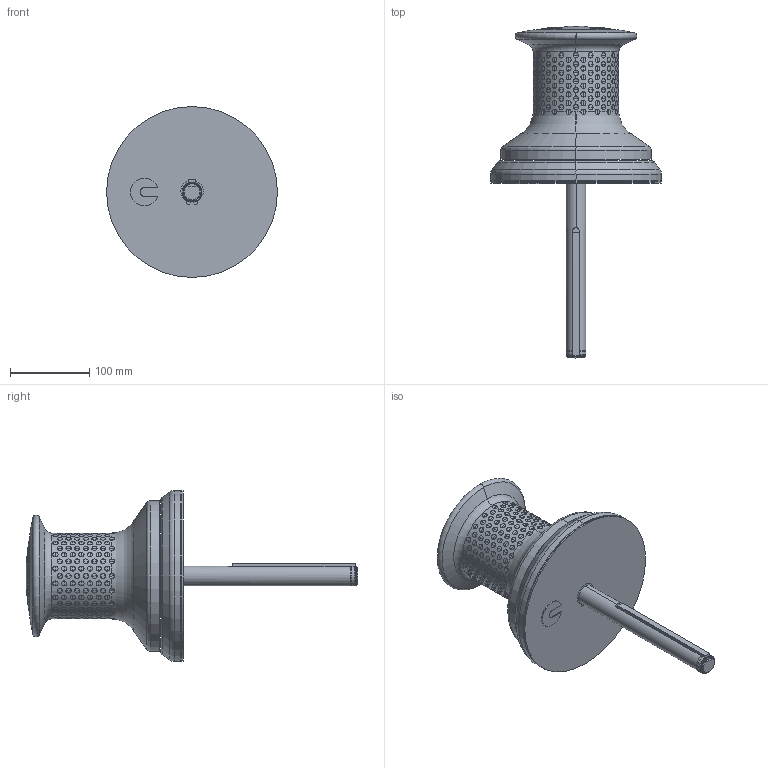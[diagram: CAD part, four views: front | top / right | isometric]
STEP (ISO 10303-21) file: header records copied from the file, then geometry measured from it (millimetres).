
FILE_DESCRIPTION((''),'2;1');
FILE_NAME('C4-5','2010-02-01T',('MDance'),(''),'PRO/ENGINEER BY PARAMETRIC TECHNOLOGY CORPORATION, 2007030','PRO/ENGINEER BY PARAMETRIC TECHNOLOGY CORPORATION, 2007030','');
FILE_SCHEMA(('CONFIG_CONTROL_DESIGN'));
Length unit declared in the file: millimetre
Products named in the file (1): C4-5
Bounding box: 215 x 417.71 x 215 mm (x, y, z)
Surface area: 251471.4 mm2 (no closed solid volume)
Topology: 0 solids, 251 shells, 904 faces, 2779 edges, 1605 vertices
Faces by surface type: sphere 526, plane 245, cylinder 54, torus 47, bspline 24, cone 8
Entity records: 34265 total; most frequent: CARTESIAN_POINT 14085, DIRECTION 4145, ORIENTED_EDGE 3674, EDGE_CURVE 2273, AXIS2_PLACEMENT_3D 1845, VERTEX_POINT 1605, CIRCLE 965, EDGE_LOOP 904
